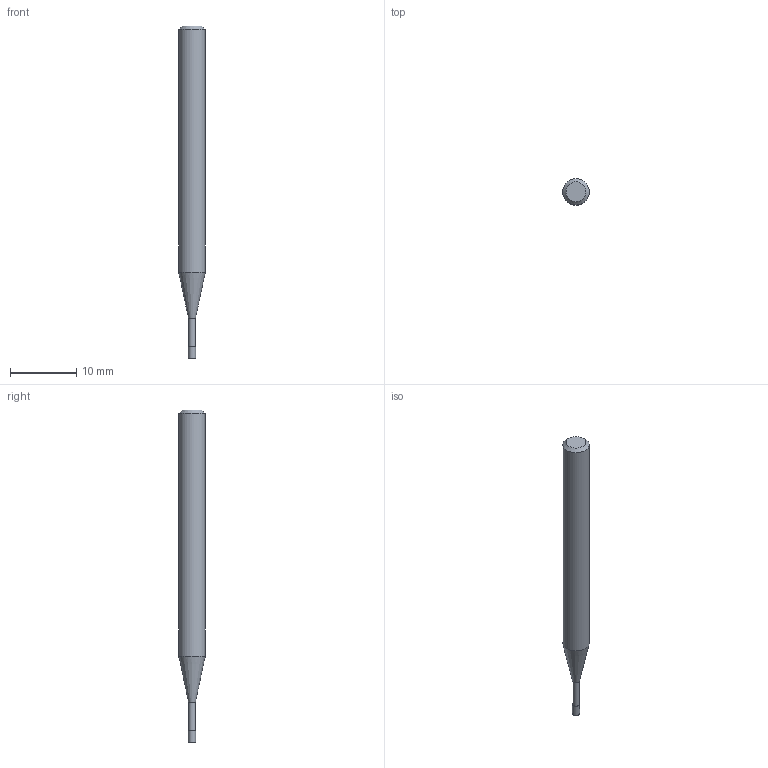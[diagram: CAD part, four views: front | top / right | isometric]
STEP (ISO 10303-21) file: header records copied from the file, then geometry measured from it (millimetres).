
FILE_DESCRIPTION((''),'2;1');
FILE_NAME('C:\Users\nsx150\AppData\Local\Temp\Mastercam 2021\17T8Q8S9EB\TEMP.step','2021-04-21T16:14:20',(''),(''),'STEP Write','Mastercam 2021 ... CNC Software, Inc.','');
FILE_SCHEMA(('AUTOMOTIVE_DESIGN'));
Length unit declared in the file: millimetre
Products named in the file (1): None
Bounding box: 4 x 4 x 50 mm (x, y, z)
Volume: 508.3 mm3; surface area: 553.4 mm2
Topology: 2 solids, 2 shells, 9 faces, 12 edges, 7 vertices
Faces by surface type: plane 4, cylinder 3, cone 2
Full cylindrical faces by diameter (mm): 1.05 x1, 1.1 x1, 4 x1
Entity records: 211 total; most frequent: DIRECTION 36, CARTESIAN_POINT 25, AXIS2_PLACEMENT_3D 18, ORIENTED_EDGE 14, EDGE_LOOP 14, STYLED_ITEM 12, ADVANCED_FACE 9, FACE_BOUND 8
